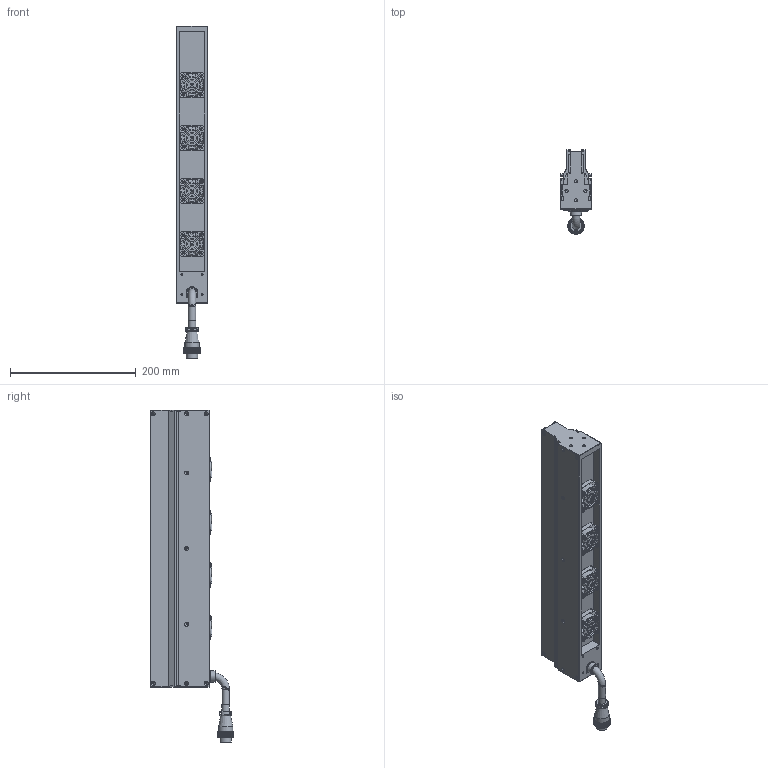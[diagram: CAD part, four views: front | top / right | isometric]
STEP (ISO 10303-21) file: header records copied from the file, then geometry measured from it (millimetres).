
FILE_DESCRIPTION (( 'STEP AP203' ), '1' );
FILE_NAME ('OPT-LSS440-W-V3.1尨砩芞.STEP', '2025-01-21T02:25:58', ( 'USER' ), ( '' ), 'SwSTEP 2.0', 'SolidWorks 2016', '' );
FILE_SCHEMA (( 'CONFIG_CONTROL_DESIGN' ));
Products named in the file (2): OPT-LSS440-W-V3.1尨砩芞
Bounding box: 50 x 133 x 527.1 mm (x, y, z)
Volume: 1492225.2 mm3; surface area: 239914.9 mm2
Topology: 21 solids, 29 shells, 2796 faces, 7167 edges, 4534 vertices
Faces by surface type: bspline 1057, cylinder 825, plane 627, torus 236, cone 51
Full cylindrical faces by diameter (mm): 1 x2, 1.1 x2, 1.4 x2, 1.6 x16, 2 x4, 2.5 x22, 3 x6, 3.2 x20, 3.4 x18, 3.5 x4, 5 x8, 6.2 x16, 8 x1, 11.6 x1, 11.7 x3, 12 x1, 15 x1, 15.9 x1, 17.5 x1, 18 x1, 18.5 x1, 22.8 x1, 24 x1, 24.8 x4, 38 x4
Entity records: 110646 total; most frequent: CARTESIAN_POINT 54972, ORIENTED_EDGE 13586, DIRECTION 7451, EDGE_CURVE 6793, VERTEX_POINT 4449, B_SPLINE_CURVE_WITH_KNOTS 4105, EDGE_LOOP 3224, AXIS2_PLACEMENT_3D 3038
